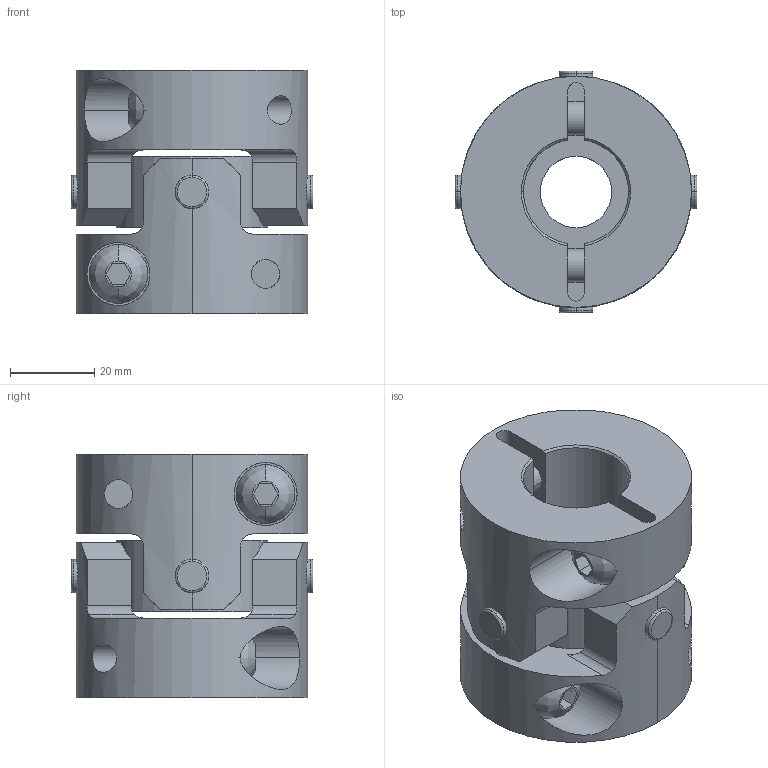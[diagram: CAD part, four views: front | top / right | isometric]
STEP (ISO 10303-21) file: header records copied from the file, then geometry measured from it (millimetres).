
FILE_DESCRIPTION((''),'2;1');
FILE_NAME('UA-55C-24×25.stp','2013-05-22T14:12:41',(''),(''),'AutoCAD STEP 2000i','AutoCAD 2000i',', , ');
FILE_SCHEMA(('CONFIG_CONTROL_DESIGN'));
Length unit declared in the file: millimetre
Products named in the file (8): UA-55C-18×18; 忣兜1; UA-5502-D18-1; BTN-M8; UA-5502-D18; UA-5502-D10-1; UA-5502-D10; UA55-SEN
Assembly tree (10 placements, depth 3):
  UA-55C-18×18
    忣兜1
    UA-5502-D18-1
      BTN-M8
    UA-5502-D18
      BTN-M8
    UA-5502-D10-1
      BTN-M8
    UA-5502-D10
      BTN-M8
    UA55-SEN
Bounding box: 57.55 x 57.55 x 58 mm (x, y, z)
Volume: 91631.3 mm3; surface area: 30122.6 mm2
Topology: 1 solids, 1 shells, 206 faces, 554 edges, 364 vertices
Faces by surface type: cylinder 96, plane 78, cone 16, bspline 8, torus 8
Entity records: 8435 total; most frequent: CARTESIAN_POINT 3079, ORIENTED_EDGE 1108, DIRECTION 1072, EDGE_CURVE 554, AXIS2_PLACEMENT_3D 413, VERTEX_POINT 364, VECTOR 246, LINE 246
